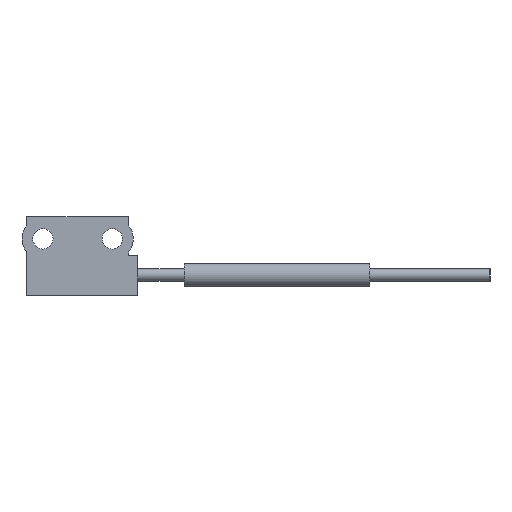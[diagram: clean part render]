
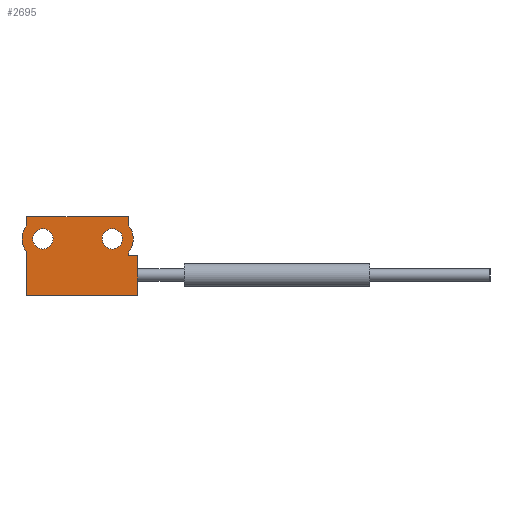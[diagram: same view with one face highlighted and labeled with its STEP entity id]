
A CAD part, left-side view. The second image highlights one B-rep face of the part: STEP entity #2695.
In plain terms, the highlighted planar face has unit normal (-1, 0, 0) as drawn and (0, -1, 0) by its records, which use the part's own axes.
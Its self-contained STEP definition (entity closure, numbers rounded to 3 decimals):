
#833 = CARTESIAN_POINT ( 'NONE',  ( 5.5, -1.5, 5.314 ) ) ;
#834 = DIRECTION ( 'NONE',  ( 0., 0., 1. ) ) ;
#835 = DIRECTION ( 'NONE',  ( 0., 1., 0. ) ) ;
#836 = CARTESIAN_POINT ( 'NONE',  ( 3.75, -1.5, 3.9 ) ) ;
#837 = AXIS2_PLACEMENT_3D ( 'NONE', #836, #835, #834 ) ;
#838 = CIRCLE ( 'NONE', #837, 2.25 ) ;
#839 = CARTESIAN_POINT ( 'NONE',  ( 5.5, -1.5, 2.486 ) ) ;
#840 = DIRECTION ( 'NONE',  ( 0., 0., -1. ) ) ;
#841 = VECTOR ( 'NONE', #840, 1000. ) ;
#842 = CARTESIAN_POINT ( 'NONE',  ( 5.5, -1.5, 6.3 ) ) ;
#843 = LINE ( 'NONE', #842, #841 ) ;
#980 = DIRECTION ( 'NONE',  ( 0., 0., -1. ) ) ;
#981 = VECTOR ( 'NONE', #980, 1000. ) ;
#982 = CARTESIAN_POINT ( 'NONE',  ( 5.5, -1.5, 6.3 ) ) ;
#983 = LINE ( 'NONE', #982, #981 ) ;
#1125 = CARTESIAN_POINT ( 'NONE',  ( 3.75, -1.5, 3.9 ) ) ;
#1141 = CARTESIAN_POINT ( 'NONE',  ( 3.75, -1.5, 5. ) ) ;
#1142 = CARTESIAN_POINT ( 'NONE',  ( 3.75, -1.5, 2.8 ) ) ;
#1143 = DIRECTION ( 'NONE',  ( 0., 0., 1. ) ) ;
#1144 = DIRECTION ( 'NONE',  ( 0., 1., 0. ) ) ;
#1145 = AXIS2_PLACEMENT_3D ( 'NONE', #1125, #1144, #1143 ) ;
#1146 = CIRCLE ( 'NONE', #1145, 1.1 ) ;
#1383 = CARTESIAN_POINT ( 'NONE',  ( -3.75, -1.5, 2.8 ) ) ;
#1384 = CARTESIAN_POINT ( 'NONE',  ( -3.75, -1.5, 5. ) ) ;
#1385 = DIRECTION ( 'NONE',  ( 0., 0., 1. ) ) ;
#1386 = DIRECTION ( 'NONE',  ( 0., -1., 0. ) ) ;
#1387 = CARTESIAN_POINT ( 'NONE',  ( -3.75, -1.5, 3.9 ) ) ;
#1388 = AXIS2_PLACEMENT_3D ( 'NONE', #1387, #1386, #1385 ) ;
#1389 = CIRCLE ( 'NONE', #1388, 1.1 ) ;
#1440 = CIRCLE ( 'NONE', #1447, 1.1 ) ;
#1443 = CIRCLE ( 'NONE', #1536, 1.1 ) ;
#1444 = DIRECTION ( 'NONE',  ( 0., 0., 1. ) ) ;
#1445 = DIRECTION ( 'NONE',  ( 0., 1., 0. ) ) ;
#1446 = CARTESIAN_POINT ( 'NONE',  ( 3.75, -1.5, 3.9 ) ) ;
#1447 = AXIS2_PLACEMENT_3D ( 'NONE', #1446, #1445, #1444 ) ;
#1533 = DIRECTION ( 'NONE',  ( 0., 0., 1. ) ) ;
#1534 = DIRECTION ( 'NONE',  ( 0., -1., 0. ) ) ;
#1535 = CARTESIAN_POINT ( 'NONE',  ( -3.75, -1.5, 3.9 ) ) ;
#1536 = AXIS2_PLACEMENT_3D ( 'NONE', #1535, #1534, #1533 ) ;
#1560 = CARTESIAN_POINT ( 'NONE',  ( 5.5, -1.5, 2.1 ) ) ;
#1561 = DIRECTION ( 'NONE',  ( 1., 0., 0. ) ) ;
#1562 = VECTOR ( 'NONE', #1561, 1000. ) ;
#1563 = CARTESIAN_POINT ( 'NONE',  ( -5.5, -1.5, 2.1 ) ) ;
#1564 = LINE ( 'NONE', #1563, #1562 ) ;
#1565 = LINE ( 'NONE', #1739, #1738 ) ;
#1566 = DIRECTION ( 'NONE',  ( 0., 0., 1. ) ) ;
#1567 = DIRECTION ( 'NONE',  ( 0., 1., 0. ) ) ;
#1568 = CARTESIAN_POINT ( 'NONE',  ( -5.5, -1.5, 6.3 ) ) ;
#1569 = AXIS2_PLACEMENT_3D ( 'NONE', #1568, #1567, #1566 ) ;
#1577 = PLANE ( 'NONE',  #1569 ) ;
#1578 = FACE_BOUND ( 'NONE', #2591, .T. ) ;
#1579 = FACE_BOUND ( 'NONE', #2721, .T. ) ;
#1580 = FACE_OUTER_BOUND ( 'NONE', #2696, .T. ) ;
#1581 = CARTESIAN_POINT ( 'NONE',  ( 6.5, -1.5, 2.1 ) ) ;
#1585 = VECTOR ( 'NONE', #1613, 1000. ) ;
#1586 = CARTESIAN_POINT ( 'NONE',  ( -5.5, -1.5, 6.3 ) ) ;
#1587 = LINE ( 'NONE', #1586, #1585 ) ;
#1592 = DIRECTION ( 'NONE',  ( 0., 0., 1. ) ) ;
#1593 = VECTOR ( 'NONE', #1592, 1000. ) ;
#1594 = CARTESIAN_POINT ( 'NONE',  ( -5.5, -1.5, -2.2 ) ) ;
#1602 = CARTESIAN_POINT ( 'NONE',  ( 5.5, -1.5, 6.3 ) ) ;
#1611 = CARTESIAN_POINT ( 'NONE',  ( -5.5, -1.5, 6.3 ) ) ;
#1612 = LINE ( 'NONE', #1594, #1593 ) ;
#1613 = DIRECTION ( 'NONE',  ( 1., 0., 0. ) ) ;
#1683 = DIRECTION ( 'NONE',  ( -1., 0., 0. ) ) ;
#1684 = VECTOR ( 'NONE', #1683, 1000. ) ;
#1685 = CARTESIAN_POINT ( 'NONE',  ( -5.5, -1.5, -2.2 ) ) ;
#1686 = LINE ( 'NONE', #1685, #1684 ) ;
#1687 = CARTESIAN_POINT ( 'NONE',  ( -5.5, -1.5, -2.2 ) ) ;
#1688 = DIRECTION ( 'NONE',  ( 0., 0., 1. ) ) ;
#1689 = VECTOR ( 'NONE', #1688, 1000. ) ;
#1690 = CARTESIAN_POINT ( 'NONE',  ( -5.5, -1.5, -2.2 ) ) ;
#1691 = LINE ( 'NONE', #1690, #1689 ) ;
#1692 = CARTESIAN_POINT ( 'NONE',  ( -5.5, -1.5, 2.486 ) ) ;
#1693 = DIRECTION ( 'NONE',  ( 0., 0., 1. ) ) ;
#1694 = DIRECTION ( 'NONE',  ( 0., -1., 0. ) ) ;
#1695 = CARTESIAN_POINT ( 'NONE',  ( -3.75, -1.5, 3.9 ) ) ;
#1696 = AXIS2_PLACEMENT_3D ( 'NONE', #1695, #1694, #1693 ) ;
#1697 = CIRCLE ( 'NONE', #1696, 2.25 ) ;
#1698 = CARTESIAN_POINT ( 'NONE',  ( -5.5, -1.5, 5.314 ) ) ;
#1736 = CARTESIAN_POINT ( 'NONE',  ( 6.5, -1.5, -2.2 ) ) ;
#1737 = DIRECTION ( 'NONE',  ( 0., 0., -1. ) ) ;
#1738 = VECTOR ( 'NONE', #1737, 1000. ) ;
#1739 = CARTESIAN_POINT ( 'NONE',  ( 6.5, -1.5, -2.2 ) ) ;
#2334 = ORIENTED_EDGE ( 'NONE', *, *, #2335, .F. ) ;
#2335 = EDGE_CURVE ( 'NONE', #2336, #2699, #843, .T. ) ;
#2336 = VERTEX_POINT ( 'NONE', #839 ) ;
#2337 = ORIENTED_EDGE ( 'NONE', *, *, #2338, .F. ) ;
#2338 = EDGE_CURVE ( 'NONE', #2339, #2336, #838, .T. ) ;
#2339 = VERTEX_POINT ( 'NONE', #833 ) ;
#2340 = ORIENTED_EDGE ( 'NONE', *, *, #2341, .F. ) ;
#2341 = EDGE_CURVE ( 'NONE', #2663, #2339, #983, .T. ) ;
#2459 = EDGE_CURVE ( 'NONE', #2460, #2461, #1146, .T. ) ;
#2460 = VERTEX_POINT ( 'NONE', #1142 ) ;
#2461 = VERTEX_POINT ( 'NONE', #1141 ) ;
#2547 = EDGE_CURVE ( 'NONE', #2548, #2549, #1389, .T. ) ;
#2548 = VERTEX_POINT ( 'NONE', #1384 ) ;
#2549 = VERTEX_POINT ( 'NONE', #1383 ) ;
#2588 = ORIENTED_EDGE ( 'NONE', *, *, #2589, .T. ) ;
#2589 = EDGE_CURVE ( 'NONE', #2461, #2460, #1440, .T. ) ;
#2590 = ORIENTED_EDGE ( 'NONE', *, *, #2459, .T. ) ;
#2591 = EDGE_LOOP ( 'NONE', ( #2592, #2593 ) ) ;
#2592 = ORIENTED_EDGE ( 'NONE', *, *, #2547, .F. ) ;
#2593 = ORIENTED_EDGE ( 'NONE', *, *, #2594, .F. ) ;
#2594 = EDGE_CURVE ( 'NONE', #2549, #2548, #1443, .T. ) ;
#2663 = VERTEX_POINT ( 'NONE', #1602 ) ;
#2664 = ORIENTED_EDGE ( 'NONE', *, *, #2665, .F. ) ;
#2665 = EDGE_CURVE ( 'NONE', #2666, #2663, #1587, .T. ) ;
#2666 = VERTEX_POINT ( 'NONE', #1611 ) ;
#2667 = ORIENTED_EDGE ( 'NONE', *, *, #2668, .F. ) ;
#2668 = EDGE_CURVE ( 'NONE', #2711, #2666, #1612, .T. ) ;
#2693 = VERTEX_POINT ( 'NONE', #1581 ) ;
#2695 = ADVANCED_FACE ( 'NONE', ( #1580, #1579, #1578 ), #1577, .F. ) ;
#2696 = EDGE_LOOP ( 'NONE', ( #2697, #2334, #2337, #2340, #2664, #2667, #2712, #2715, #2718, #2720 ) ) ;
#2697 = ORIENTED_EDGE ( 'NONE', *, *, #2698, .F. ) ;
#2698 = EDGE_CURVE ( 'NONE', #2699, #2693, #1564, .T. ) ;
#2699 = VERTEX_POINT ( 'NONE', #1560 ) ;
#2701 = EDGE_CURVE ( 'NONE', #2693, #2702, #1565, .T. ) ;
#2702 = VERTEX_POINT ( 'NONE', #1736 ) ;
#2711 = VERTEX_POINT ( 'NONE', #1698 ) ;
#2712 = ORIENTED_EDGE ( 'NONE', *, *, #2713, .T. ) ;
#2713 = EDGE_CURVE ( 'NONE', #2711, #2714, #1697, .T. ) ;
#2714 = VERTEX_POINT ( 'NONE', #1692 ) ;
#2715 = ORIENTED_EDGE ( 'NONE', *, *, #2716, .F. ) ;
#2716 = EDGE_CURVE ( 'NONE', #2717, #2714, #1691, .T. ) ;
#2717 = VERTEX_POINT ( 'NONE', #1687 ) ;
#2718 = ORIENTED_EDGE ( 'NONE', *, *, #2719, .F. ) ;
#2719 = EDGE_CURVE ( 'NONE', #2702, #2717, #1686, .T. ) ;
#2720 = ORIENTED_EDGE ( 'NONE', *, *, #2701, .F. ) ;
#2721 = EDGE_LOOP ( 'NONE', ( #2588, #2590 ) ) ;
